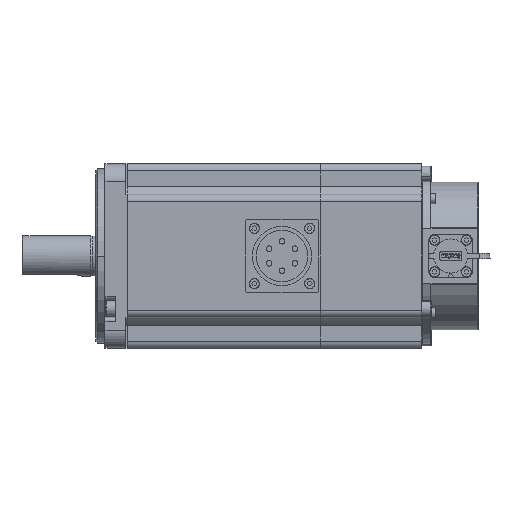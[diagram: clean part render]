
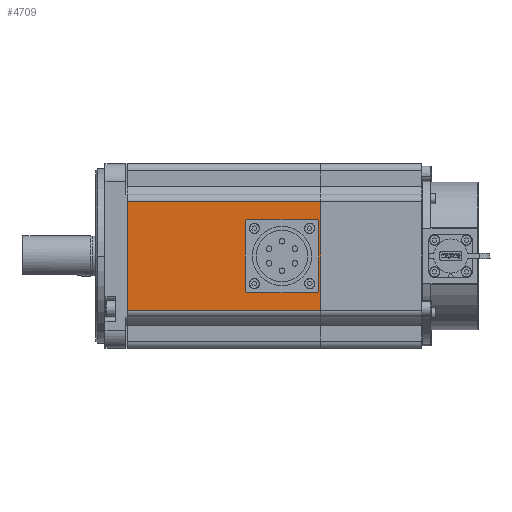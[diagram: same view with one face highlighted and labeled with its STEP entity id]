
A CAD part, front view. The second image highlights one B-rep face of the part: STEP entity #4709.
In plain terms, the highlighted planar face has unit normal (0, -1, 0).
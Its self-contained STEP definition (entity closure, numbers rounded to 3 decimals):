
#276 = CARTESIAN_POINT ( 'NONE',  ( -54.95, -50.15, 29.5 ) ) ;
#598 = DIRECTION ( 'NONE',  ( 1., 0., 0. ) ) ;
#655 = DIRECTION ( 'NONE',  ( 0., -1., 0. ) ) ;
#733 = FACE_BOUND ( 'NONE', #20247, .T. ) ;
#1106 = CIRCLE ( 'NONE', #16949, 1.25 ) ;
#1211 = VERTEX_POINT ( 'NONE', #18271 ) ;
#1326 = AXIS2_PLACEMENT_3D ( 'NONE', #9375, #16498, #11571 ) ;
#1616 = CIRCLE ( 'NONE', #7718, 10. ) ;
#1698 = CARTESIAN_POINT ( 'NONE',  ( 35.05, -50.15, -10. ) ) ;
#2163 = EDGE_CURVE ( 'NONE', #5846, #19055, #25147, .T. ) ;
#2193 = VERTEX_POINT ( 'NONE', #1698 ) ;
#2209 = LINE ( 'NONE', #10771, #27297 ) ;
#2422 = VERTEX_POINT ( 'NONE', #28624 ) ;
#2508 = ORIENTED_EDGE ( 'NONE', *, *, #21873, .F. ) ;
#2934 = CIRCLE ( 'NONE', #16117, 1.25 ) ;
#2995 = CARTESIAN_POINT ( 'NONE',  ( 13.1, -50.15, 14.7 ) ) ;
#3448 = CARTESIAN_POINT ( 'NONE',  ( 45., -50.15, -14.7 ) ) ;
#3605 = DIRECTION ( 'NONE',  ( 1., 0., 0. ) ) ;
#4197 = DIRECTION ( 'NONE',  ( 0., 0., 1. ) ) ;
#4205 = VERTEX_POINT ( 'NONE', #26805 ) ;
#4338 = VECTOR ( 'NONE', #16825, 1000. ) ;
#4709 = ADVANCED_FACE ( 'NONE', ( #15581, #733, #27344, #20902, #6393, #22403 ), #26127, .F. ) ;
#4991 = VERTEX_POINT ( 'NONE', #16043 ) ;
#5046 = CARTESIAN_POINT ( 'NONE',  ( 45., -50.15, 14.7 ) ) ;
#5633 = CARTESIAN_POINT ( 'NONE',  ( 14.35, -50.15, -14.7 ) ) ;
#5716 = AXIS2_PLACEMENT_3D ( 'NONE', #24675, #12570, #14099 ) ;
#5836 = EDGE_LOOP ( 'NONE', ( #15242, #17598, #30781, #22016 ) ) ;
#5846 = VERTEX_POINT ( 'NONE', #2995 ) ;
#5852 = LINE ( 'NONE', #6902, #4338 ) ;
#6393 = FACE_BOUND ( 'NONE', #30304, .T. ) ;
#6566 = LINE ( 'NONE', #18874, #24853 ) ;
#6886 = DIRECTION ( 'NONE',  ( 0., 1., 0. ) ) ;
#6902 = CARTESIAN_POINT ( 'NONE',  ( -54.95, -50.15, -29.5 ) ) ;
#7007 = ORIENTED_EDGE ( 'NONE', *, *, #2163, .F. ) ;
#7519 = DIRECTION ( 'NONE',  ( 0., -1., 0. ) ) ;
#7718 = AXIS2_PLACEMENT_3D ( 'NONE', #17057, #22035, #10028 ) ;
#8499 = DIRECTION ( 'NONE',  ( 0., -1., 0. ) ) ;
#8539 = ORIENTED_EDGE ( 'NONE', *, *, #27117, .F. ) ;
#8795 = ORIENTED_EDGE ( 'NONE', *, *, #26906, .F. ) ;
#9269 = EDGE_CURVE ( 'NONE', #23666, #27408, #2934, .T. ) ;
#9362 = LINE ( 'NONE', #276, #24551 ) ;
#9375 = CARTESIAN_POINT ( 'NONE',  ( 14.35, -50.15, 14.7 ) ) ;
#9643 = CARTESIAN_POINT ( 'NONE',  ( 15.6, -50.15, -14.7 ) ) ;
#9653 = ORIENTED_EDGE ( 'NONE', *, *, #29630, .F. ) ;
#9681 = ORIENTED_EDGE ( 'NONE', *, *, #23237, .F. ) ;
#9781 = EDGE_CURVE ( 'NONE', #14875, #10396, #17714, .T. ) ;
#10028 = DIRECTION ( 'NONE',  ( 0., 0., 1. ) ) ;
#10189 = CARTESIAN_POINT ( 'NONE',  ( 43.75, -50.15, 14.7 ) ) ;
#10350 = DIRECTION ( 'NONE',  ( 0., -1., 0. ) ) ;
#10396 = VERTEX_POINT ( 'NONE', #26812 ) ;
#10771 = CARTESIAN_POINT ( 'NONE',  ( 50.05, -50.15, 29.5 ) ) ;
#10813 = CIRCLE ( 'NONE', #27611, 1.25 ) ;
#10839 = CARTESIAN_POINT ( 'NONE',  ( 43.75, -50.15, -14.7 ) ) ;
#11571 = DIRECTION ( 'NONE',  ( 1., 0., 0. ) ) ;
#11800 = EDGE_CURVE ( 'NONE', #2422, #1211, #6566, .T. ) ;
#12031 = ORIENTED_EDGE ( 'NONE', *, *, #26852, .F. ) ;
#12032 = AXIS2_PLACEMENT_3D ( 'NONE', #10839, #8499, #3605 ) ;
#12570 = DIRECTION ( 'NONE',  ( 0., -1., 0. ) ) ;
#12642 = AXIS2_PLACEMENT_3D ( 'NONE', #18075, #27606, #17668 ) ;
#13863 = VERTEX_POINT ( 'NONE', #19088 ) ;
#14099 = DIRECTION ( 'NONE',  ( 1., 0., 0. ) ) ;
#14463 = EDGE_CURVE ( 'NONE', #2422, #13863, #5852, .T. ) ;
#14504 = DIRECTION ( 'NONE',  ( 1., 0., 0. ) ) ;
#14875 = VERTEX_POINT ( 'NONE', #9643 ) ;
#15037 = AXIS2_PLACEMENT_3D ( 'NONE', #23770, #6886, #21257 ) ;
#15242 = ORIENTED_EDGE ( 'NONE', *, *, #19235, .T. ) ;
#15581 = FACE_BOUND ( 'NONE', #23763, .T. ) ;
#16043 = CARTESIAN_POINT ( 'NONE',  ( 42.5, -50.15, -14.7 ) ) ;
#16117 = AXIS2_PLACEMENT_3D ( 'NONE', #10189, #7519, #598 ) ;
#16272 = CIRCLE ( 'NONE', #28775, 1.25 ) ;
#16498 = DIRECTION ( 'NONE',  ( 0., -1., 0. ) ) ;
#16825 = DIRECTION ( 'NONE',  ( 1., 0., 0. ) ) ;
#16949 = AXIS2_PLACEMENT_3D ( 'NONE', #31396, #19665, #24192 ) ;
#17057 = CARTESIAN_POINT ( 'NONE',  ( 35.05, -50.15, 0. ) ) ;
#17307 = ORIENTED_EDGE ( 'NONE', *, *, #24655, .F. ) ;
#17598 = ORIENTED_EDGE ( 'NONE', *, *, #20042, .F. ) ;
#17665 = VERTEX_POINT ( 'NONE', #3448 ) ;
#17668 = DIRECTION ( 'NONE',  ( 1., 0., 0. ) ) ;
#17714 = CIRCLE ( 'NONE', #5716, 1.25 ) ;
#18075 = CARTESIAN_POINT ( 'NONE',  ( 43.75, -50.15, 14.7 ) ) ;
#18103 = ORIENTED_EDGE ( 'NONE', *, *, #9269, .F. ) ;
#18271 = CARTESIAN_POINT ( 'NONE',  ( -54.95, -50.15, 29.5 ) ) ;
#18874 = CARTESIAN_POINT ( 'NONE',  ( -54.95, -50.15, 29.5 ) ) ;
#19055 = VERTEX_POINT ( 'NONE', #29147 ) ;
#19088 = CARTESIAN_POINT ( 'NONE',  ( 50.05, -50.15, -29.5 ) ) ;
#19235 = EDGE_CURVE ( 'NONE', #13863, #4205, #2209, .T. ) ;
#19495 = CARTESIAN_POINT ( 'NONE',  ( 35.05, -50.15, 0. ) ) ;
#19665 = DIRECTION ( 'NONE',  ( 0., -1., 0. ) ) ;
#20042 = EDGE_CURVE ( 'NONE', #1211, #4205, #9362, .T. ) ;
#20247 = EDGE_LOOP ( 'NONE', ( #9681, #7007 ) ) ;
#20562 = DIRECTION ( 'NONE',  ( 0., 0., 1. ) ) ;
#20902 = FACE_BOUND ( 'NONE', #25876, .T. ) ;
#21257 = DIRECTION ( 'NONE',  ( 0., 0., -1. ) ) ;
#21873 = EDGE_CURVE ( 'NONE', #22533, #2193, #26876, .T. ) ;
#22016 = ORIENTED_EDGE ( 'NONE', *, *, #14463, .T. ) ;
#22035 = DIRECTION ( 'NONE',  ( 0., -1., 0. ) ) ;
#22058 = CIRCLE ( 'NONE', #12032, 1.25 ) ;
#22403 = FACE_OUTER_BOUND ( 'NONE', #5836, .T. ) ;
#22516 = CARTESIAN_POINT ( 'NONE',  ( 42.5, -50.15, 14.7 ) ) ;
#22533 = VERTEX_POINT ( 'NONE', #31262 ) ;
#23237 = EDGE_CURVE ( 'NONE', #19055, #5846, #10813, .T. ) ;
#23666 = VERTEX_POINT ( 'NONE', #22516 ) ;
#23763 = EDGE_LOOP ( 'NONE', ( #12031, #18103 ) ) ;
#23770 = CARTESIAN_POINT ( 'NONE',  ( -54.95, -50.15, 29.5 ) ) ;
#23991 = AXIS2_PLACEMENT_3D ( 'NONE', #19495, #29218, #26917 ) ;
#24192 = DIRECTION ( 'NONE',  ( 1., 0., 0. ) ) ;
#24551 = VECTOR ( 'NONE', #14504, 1000. ) ;
#24655 = EDGE_CURVE ( 'NONE', #2193, #22533, #1616, .T. ) ;
#24675 = CARTESIAN_POINT ( 'NONE',  ( 14.35, -50.15, -14.7 ) ) ;
#24853 = VECTOR ( 'NONE', #4197, 1000. ) ;
#24881 = CARTESIAN_POINT ( 'NONE',  ( 14.35, -50.15, 14.7 ) ) ;
#25147 = CIRCLE ( 'NONE', #1326, 1.25 ) ;
#25187 = DIRECTION ( 'NONE',  ( 1., 0., 0. ) ) ;
#25876 = EDGE_LOOP ( 'NONE', ( #8795, #8539 ) ) ;
#26127 = PLANE ( 'NONE',  #15037 ) ;
#26805 = CARTESIAN_POINT ( 'NONE',  ( 50.05, -50.15, 29.5 ) ) ;
#26812 = CARTESIAN_POINT ( 'NONE',  ( 13.1, -50.15, -14.7 ) ) ;
#26852 = EDGE_CURVE ( 'NONE', #27408, #23666, #29645, .T. ) ;
#26876 = CIRCLE ( 'NONE', #23991, 10. ) ;
#26906 = EDGE_CURVE ( 'NONE', #17665, #4991, #22058, .T. ) ;
#26917 = DIRECTION ( 'NONE',  ( 0., 0., 1. ) ) ;
#27117 = EDGE_CURVE ( 'NONE', #4991, #17665, #1106, .T. ) ;
#27236 = EDGE_LOOP ( 'NONE', ( #30772, #9653 ) ) ;
#27297 = VECTOR ( 'NONE', #20562, 1000. ) ;
#27344 = FACE_BOUND ( 'NONE', #27236, .T. ) ;
#27408 = VERTEX_POINT ( 'NONE', #5046 ) ;
#27606 = DIRECTION ( 'NONE',  ( 0., -1., 0. ) ) ;
#27611 = AXIS2_PLACEMENT_3D ( 'NONE', #24881, #10350, #29864 ) ;
#28624 = CARTESIAN_POINT ( 'NONE',  ( -54.95, -50.15, -29.5 ) ) ;
#28775 = AXIS2_PLACEMENT_3D ( 'NONE', #5633, #655, #25187 ) ;
#29147 = CARTESIAN_POINT ( 'NONE',  ( 15.6, -50.15, 14.7 ) ) ;
#29218 = DIRECTION ( 'NONE',  ( 0., -1., 0. ) ) ;
#29630 = EDGE_CURVE ( 'NONE', #10396, #14875, #16272, .T. ) ;
#29645 = CIRCLE ( 'NONE', #12642, 1.25 ) ;
#29864 = DIRECTION ( 'NONE',  ( 1., 0., 0. ) ) ;
#30304 = EDGE_LOOP ( 'NONE', ( #2508, #17307 ) ) ;
#30772 = ORIENTED_EDGE ( 'NONE', *, *, #9781, .F. ) ;
#30781 = ORIENTED_EDGE ( 'NONE', *, *, #11800, .F. ) ;
#31262 = CARTESIAN_POINT ( 'NONE',  ( 35.05, -50.15, 10. ) ) ;
#31396 = CARTESIAN_POINT ( 'NONE',  ( 43.75, -50.15, -14.7 ) ) ;
